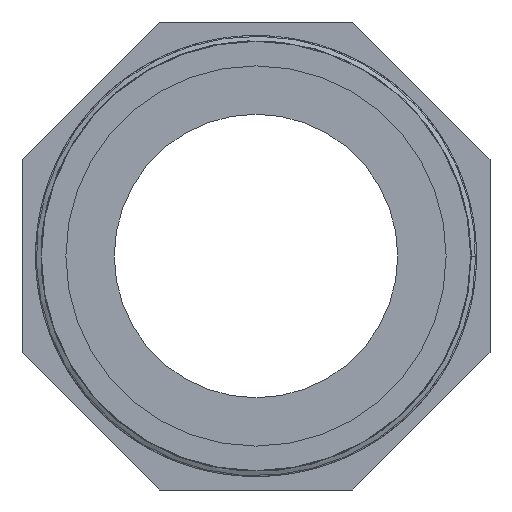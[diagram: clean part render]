
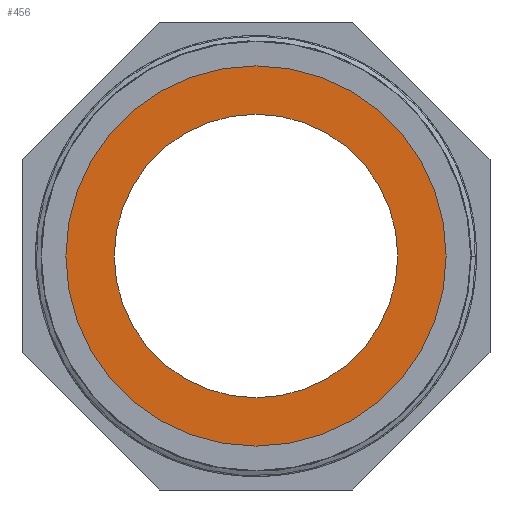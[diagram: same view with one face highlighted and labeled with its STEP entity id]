
A CAD part, front view. The second image highlights one B-rep face of the part: STEP entity #456.
In plain terms, the highlighted planar face has unit normal (0, -1, 0).
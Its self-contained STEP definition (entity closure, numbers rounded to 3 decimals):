
#19=FACE_BOUND('',#95,.T.);
#28=PLANE('',#483);
#47=CIRCLE('',#484,48.75);
#48=CIRCLE('',#485,36.35);
#65=FACE_OUTER_BOUND('',#94,.T.);
#94=EDGE_LOOP('',(#360));
#95=EDGE_LOOP('',(#361));
#222=VERTEX_POINT('',#12999);
#223=VERTEX_POINT('',#13001);
#276=EDGE_CURVE('',#222,#222,#47,.T.);
#277=EDGE_CURVE('',#223,#223,#48,.T.);
#360=ORIENTED_EDGE('',*,*,#276,.T.);
#361=ORIENTED_EDGE('',*,*,#277,.F.);
#456=ADVANCED_FACE('',(#65,#19),#28,.F.);
#483=AXIS2_PLACEMENT_3D('',#12998,#530,#531);
#484=AXIS2_PLACEMENT_3D('',#13000,#532,#533);
#485=AXIS2_PLACEMENT_3D('',#13002,#534,#535);
#530=DIRECTION('center_axis',(0.,1.,0.));
#531=DIRECTION('ref_axis',(0.,0.,1.));
#532=DIRECTION('center_axis',(0.,-1.,0.));
#533=DIRECTION('ref_axis',(-1.,0.,0.));
#534=DIRECTION('center_axis',(0.,-1.,0.));
#535=DIRECTION('ref_axis',(-1.,0.,0.));
#12998=CARTESIAN_POINT('Origin',(0.,0.,0.));
#12999=CARTESIAN_POINT('',(48.75,0.,0.));
#13000=CARTESIAN_POINT('Origin',(0.,0.,0.));
#13001=CARTESIAN_POINT('',(36.35,0.,0.));
#13002=CARTESIAN_POINT('Origin',(0.,0.,0.));
